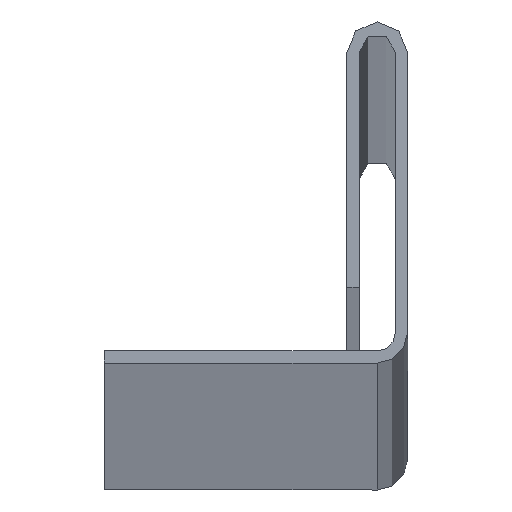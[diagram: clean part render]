
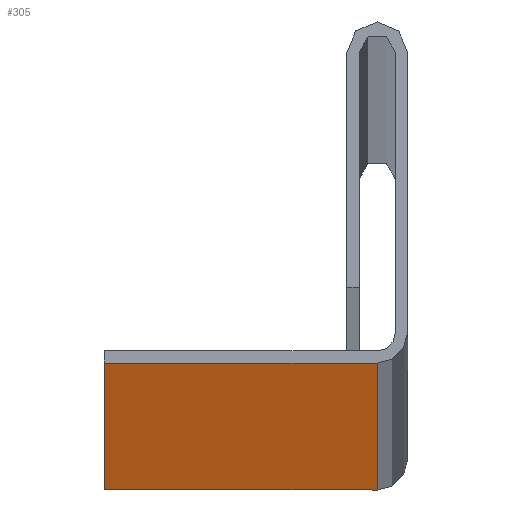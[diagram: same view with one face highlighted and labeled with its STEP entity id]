
A CAD part, top view. The second image highlights one B-rep face of the part: STEP entity #305.
In plain terms, the highlighted planar face has unit normal (0, -1, 0).
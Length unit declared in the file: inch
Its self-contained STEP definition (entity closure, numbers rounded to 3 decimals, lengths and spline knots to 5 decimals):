
#43 = PLANE ( 'NONE',  #247 ) ;
#59 = VERTEX_POINT ( 'NONE', #371 ) ;
#75 = VECTOR ( 'NONE', #559, 39.37008 ) ;
#81 = ORIENTED_EDGE ( 'NONE', *, *, #164, .T. ) ;
#86 = DIRECTION ( 'NONE',  ( 0., -1., 0. ) ) ;
#93 = ORIENTED_EDGE ( 'NONE', *, *, #103, .F. ) ;
#96 = FACE_OUTER_BOUND ( 'NONE', #370, .T. ) ;
#103 = EDGE_CURVE ( 'NONE', #140, #59, #394, .T. ) ;
#134 = CARTESIAN_POINT ( 'NONE',  ( 0.47, -0.05, 120. ) ) ;
#140 = VERTEX_POINT ( 'NONE', #461 ) ;
#147 = CARTESIAN_POINT ( 'NONE',  ( 0.47, -0.05, 120. ) ) ;
#164 = EDGE_CURVE ( 'NONE', #140, #378, #455, .T. ) ;
#176 = ORIENTED_EDGE ( 'NONE', *, *, #299, .T. ) ;
#208 = DIRECTION ( 'NONE',  ( -1., 0., 0. ) ) ;
#215 = CARTESIAN_POINT ( 'NONE',  ( 0.02, -0.05, 120. ) ) ;
#227 = LINE ( 'NONE', #215, #75 ) ;
#229 = VECTOR ( 'NONE', #276, 39.37008 ) ;
#247 = AXIS2_PLACEMENT_3D ( 'NONE', #568, #86, #355 ) ;
#262 = CARTESIAN_POINT ( 'NONE',  ( 0.02, -0.05, 120. ) ) ;
#263 = LINE ( 'NONE', #486, #397 ) ;
#276 = DIRECTION ( 'NONE',  ( -1., 0., 0. ) ) ;
#278 = ORIENTED_EDGE ( 'NONE', *, *, #342, .F. ) ;
#299 = EDGE_CURVE ( 'NONE', #378, #303, #227, .T. ) ;
#302 = VECTOR ( 'NONE', #312, 39.37008 ) ;
#303 = VERTEX_POINT ( 'NONE', #588 ) ;
#305 = ADVANCED_FACE ( 'NONE', ( #96 ), #43, .T. ) ;
#312 = DIRECTION ( 'NONE',  ( 0., 0., -1. ) ) ;
#342 = EDGE_CURVE ( 'NONE', #59, #303, #263, .T. ) ;
#355 = DIRECTION ( 'NONE',  ( 0., 0., -1. ) ) ;
#370 = EDGE_LOOP ( 'NONE', ( #278, #93, #81, #176 ) ) ;
#371 = CARTESIAN_POINT ( 'NONE',  ( 0.47, -0.05, 0. ) ) ;
#378 = VERTEX_POINT ( 'NONE', #262 ) ;
#394 = LINE ( 'NONE', #147, #302 ) ;
#397 = VECTOR ( 'NONE', #208, 39.37008 ) ;
#455 = LINE ( 'NONE', #134, #229 ) ;
#461 = CARTESIAN_POINT ( 'NONE',  ( 0.47, -0.05, 120. ) ) ;
#486 = CARTESIAN_POINT ( 'NONE',  ( 0.47, -0.05, 0. ) ) ;
#559 = DIRECTION ( 'NONE',  ( 0., 0., -1. ) ) ;
#568 = CARTESIAN_POINT ( 'NONE',  ( 0.47, -0.05, 120. ) ) ;
#588 = CARTESIAN_POINT ( 'NONE',  ( 0.02, -0.05, 0. ) ) ;
